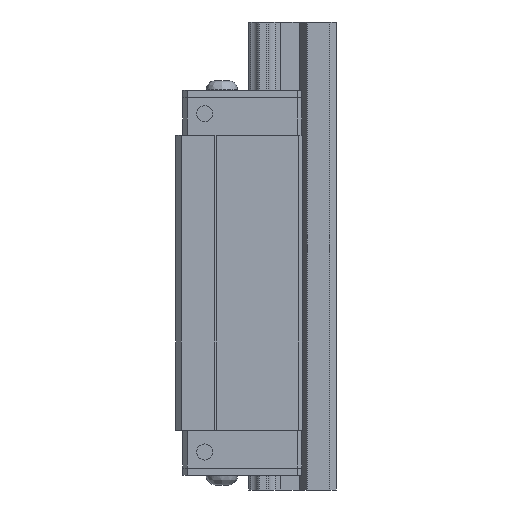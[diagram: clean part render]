
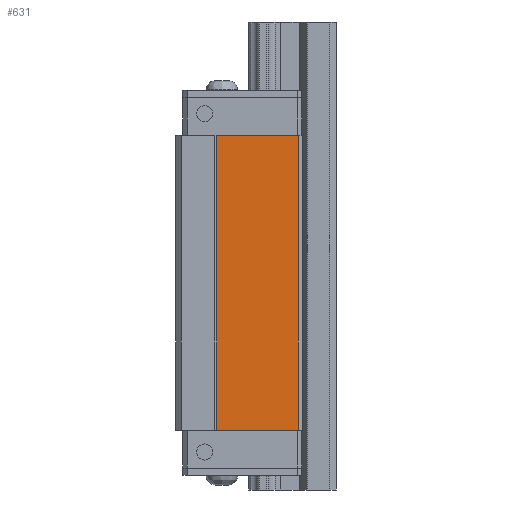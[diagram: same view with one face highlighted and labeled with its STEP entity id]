
A CAD part, left-side view. The second image highlights one B-rep face of the part: STEP entity #631.
In plain terms, the highlighted planar face has unit normal (-1, 0, 0).
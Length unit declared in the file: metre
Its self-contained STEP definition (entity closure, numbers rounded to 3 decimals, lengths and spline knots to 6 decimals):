
#631 = ADVANCED_FACE( '', ( #1352 ), #1353, .F. );
#1352 = FACE_OUTER_BOUND( '', #2274, .T. );
#1353 = PLANE( '', #2275 );
#2274 = EDGE_LOOP( '', ( #3977, #3978, #3979, #3980 ) );
#2275 = AXIS2_PLACEMENT_3D( '', #3981, #3982, #3983 );
#3977 = ORIENTED_EDGE( '', *, *, #5152, .T. );
#3978 = ORIENTED_EDGE( '', *, *, #4791, .F. );
#3979 = ORIENTED_EDGE( '', *, *, #5153, .F. );
#3980 = ORIENTED_EDGE( '', *, *, #4872, .T. );
#3981 = CARTESIAN_POINT( '', ( -0.0236, 0.0078, -0.08375 ) );
#3982 = DIRECTION( '', ( 1., 0., 0. ) );
#3983 = DIRECTION( '', ( 0., 0., -1. ) );
#4791 = EDGE_CURVE( '', #5808, #5806, #5810, .T. );
#4872 = EDGE_CURVE( '', #5935, #5933, #5936, .T. );
#5152 = EDGE_CURVE( '', #5933, #5806, #6307, .T. );
#5153 = EDGE_CURVE( '', #5935, #5808, #6308, .T. );
#5806 = VERTEX_POINT( '', #7190 );
#5808 = VERTEX_POINT( '', #7193 );
#5810 = LINE( '', #7196, #7197 );
#5933 = VERTEX_POINT( '', #7361 );
#5935 = VERTEX_POINT( '', #7364 );
#5936 = LINE( '', #7365, #7366 );
#6307 = LINE( '', #7895, #7896 );
#6308 = LINE( '', #7897, #7898 );
#7190 = CARTESIAN_POINT( '', ( -0.0236, 0.0246, -0.02325 ) );
#7193 = CARTESIAN_POINT( '', ( -0.0236, 0.0246, -0.08375 ) );
#7196 = CARTESIAN_POINT( '', ( -0.0236, 0.0246, -0.08375 ) );
#7197 = VECTOR( '', #8378, 1. );
#7361 = CARTESIAN_POINT( '', ( -0.0236, 0.0078, -0.02325 ) );
#7364 = CARTESIAN_POINT( '', ( -0.0236, 0.0078, -0.08375 ) );
#7365 = CARTESIAN_POINT( '', ( -0.0236, 0.0078, -0.08375 ) );
#7366 = VECTOR( '', #8460, 1. );
#7895 = CARTESIAN_POINT( '', ( -0.0236, 0.0078, -0.02325 ) );
#7896 = VECTOR( '', #8718, 1. );
#7897 = CARTESIAN_POINT( '', ( -0.0236, 0.0078, -0.08375 ) );
#7898 = VECTOR( '', #8719, 1. );
#8378 = DIRECTION( '', ( 0., 0., 1. ) );
#8460 = DIRECTION( '', ( 0., 0., 1. ) );
#8718 = DIRECTION( '', ( 0., 1., 0. ) );
#8719 = DIRECTION( '', ( 0., 1., 0. ) );
